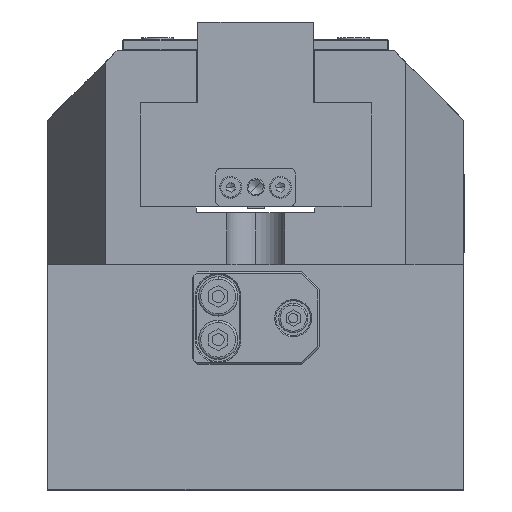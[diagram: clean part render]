
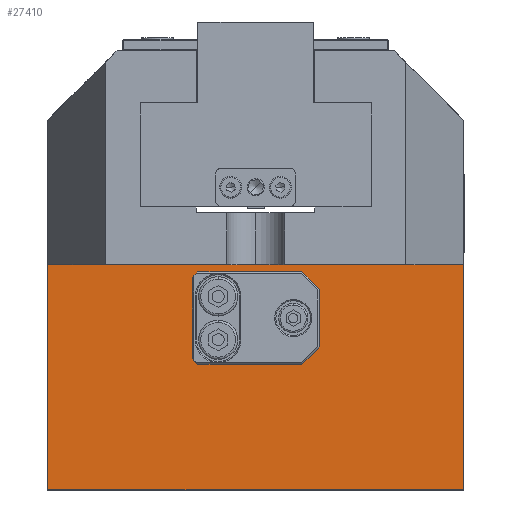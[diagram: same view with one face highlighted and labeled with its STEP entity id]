
A CAD part, left-side view. The second image highlights one B-rep face of the part: STEP entity #27410.
In plain terms, the highlighted planar face has unit normal (-1, 0, 0).
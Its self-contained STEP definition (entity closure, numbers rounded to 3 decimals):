
#646 = FACE_OUTER_BOUND ( 'NONE', #27493, .T. ) ;
#760 = DIRECTION ( 'NONE',  ( 0., 0., 1. ) ) ;
#1214 = VERTEX_POINT ( 'NONE', #28672 ) ;
#2307 = LINE ( 'NONE', #32915, #22686 ) ;
#3247 = LINE ( 'NONE', #39861, #7020 ) ;
#3973 = CARTESIAN_POINT ( 'NONE',  ( -62.5, 6.5, 33.5 ) ) ;
#4291 = CARTESIAN_POINT ( 'NONE',  ( -62.5, 6.5, 33.5 ) ) ;
#5013 = VERTEX_POINT ( 'NONE', #31191 ) ;
#5240 = CIRCLE ( 'NONE', #54241, 2. ) ;
#5733 = VECTOR ( 'NONE', #28903, 1000. ) ;
#7020 = VECTOR ( 'NONE', #60236, 1000. ) ;
#7230 = ORIENTED_EDGE ( 'NONE', *, *, #49169, .T. ) ;
#8553 = EDGE_CURVE ( 'NONE', #47585, #56739, #59288, .T. ) ;
#9210 = CARTESIAN_POINT ( 'NONE',  ( -62.5, 6.5, 26. ) ) ;
#9658 = PLANE ( 'NONE',  #32859 ) ;
#10220 = EDGE_CURVE ( 'NONE', #47585, #30404, #2307, .T. ) ;
#12011 = EDGE_CURVE ( 'NONE', #30404, #5013, #3247, .T. ) ;
#14530 = AXIS2_PLACEMENT_3D ( 'NONE', #9210, #59537, #22877 ) ;
#15303 = CARTESIAN_POINT ( 'NONE',  ( -62.5, -36., 0. ) ) ;
#18351 = EDGE_CURVE ( 'NONE', #64967, #61522, #52838, .T. ) ;
#20113 = ORIENTED_EDGE ( 'NONE', *, *, #20914, .F. ) ;
#20643 = AXIS2_PLACEMENT_3D ( 'NONE', #4291, #50275, #59309 ) ;
#20698 = ORIENTED_EDGE ( 'NONE', *, *, #34884, .T. ) ;
#20914 = EDGE_CURVE ( 'NONE', #5013, #56739, #35377, .T. ) ;
#21377 = ORIENTED_EDGE ( 'NONE', *, *, #10220, .F. ) ;
#21741 = CARTESIAN_POINT ( 'NONE',  ( -62.5, 8.5, 26. ) ) ;
#22686 = VECTOR ( 'NONE', #24867, 1000. ) ;
#22877 = DIRECTION ( 'NONE',  ( 0., 1., 0. ) ) ;
#24867 = DIRECTION ( 'NONE',  ( 0., 0., -1. ) ) ;
#25327 = DIRECTION ( 'NONE',  ( 1., 0., 0. ) ) ;
#26270 = CARTESIAN_POINT ( 'NONE',  ( -62.5, 8.5, 33.5 ) ) ;
#27410 = ADVANCED_FACE ( 'NONE', ( #60650, #35935, #646 ), #9658, .F. ) ;
#27493 = EDGE_LOOP ( 'NONE', ( #20113, #57655, #21377, #28763 ) ) ;
#28672 = CARTESIAN_POINT ( 'NONE',  ( -62.5, 4.5, 33.5 ) ) ;
#28763 = ORIENTED_EDGE ( 'NONE', *, *, #8553, .T. ) ;
#28903 = DIRECTION ( 'NONE',  ( 0., 1., 0. ) ) ;
#30404 = VERTEX_POINT ( 'NONE', #41932 ) ;
#31191 = CARTESIAN_POINT ( 'NONE',  ( -62.5, 36., 0. ) ) ;
#31812 = CARTESIAN_POINT ( 'NONE',  ( -62.5, 36., 39. ) ) ;
#32859 = AXIS2_PLACEMENT_3D ( 'NONE', #15303, #25327, #61319 ) ;
#32915 = CARTESIAN_POINT ( 'NONE',  ( -62.5, -36., 39. ) ) ;
#34772 = EDGE_CURVE ( 'NONE', #58579, #1214, #42931, .T. ) ;
#34879 = CARTESIAN_POINT ( 'NONE',  ( -62.5, -36., 39. ) ) ;
#34884 = EDGE_CURVE ( 'NONE', #1214, #58579, #36540, .T. ) ;
#35377 = LINE ( 'NONE', #55767, #42364 ) ;
#35935 = FACE_BOUND ( 'NONE', #63098, .T. ) ;
#36540 = CIRCLE ( 'NONE', #20643, 2. ) ;
#38459 = CARTESIAN_POINT ( 'NONE',  ( -62.5, 6.5, 26. ) ) ;
#39861 = CARTESIAN_POINT ( 'NONE',  ( -62.5, -36., 0. ) ) ;
#40787 = AXIS2_PLACEMENT_3D ( 'NONE', #3973, #44611, #64302 ) ;
#40887 = ORIENTED_EDGE ( 'NONE', *, *, #34772, .T. ) ;
#41932 = CARTESIAN_POINT ( 'NONE',  ( -62.5, -36., 0. ) ) ;
#42364 = VECTOR ( 'NONE', #760, 1000. ) ;
#42563 = CARTESIAN_POINT ( 'NONE',  ( -62.5, -36., 39. ) ) ;
#42931 = CIRCLE ( 'NONE', #40787, 2. ) ;
#43249 = CARTESIAN_POINT ( 'NONE',  ( -62.5, 4.5, 26. ) ) ;
#44476 = ORIENTED_EDGE ( 'NONE', *, *, #18351, .T. ) ;
#44611 = DIRECTION ( 'NONE',  ( 1., 0., 0. ) ) ;
#47585 = VERTEX_POINT ( 'NONE', #42563 ) ;
#49169 = EDGE_CURVE ( 'NONE', #61522, #64967, #5240, .T. ) ;
#50275 = DIRECTION ( 'NONE',  ( 1., 0., 0. ) ) ;
#52838 = CIRCLE ( 'NONE', #14530, 2. ) ;
#54241 = AXIS2_PLACEMENT_3D ( 'NONE', #38459, #59176, #58833 ) ;
#55767 = CARTESIAN_POINT ( 'NONE',  ( -62.5, 36., 0. ) ) ;
#56739 = VERTEX_POINT ( 'NONE', #31812 ) ;
#57655 = ORIENTED_EDGE ( 'NONE', *, *, #12011, .F. ) ;
#58579 = VERTEX_POINT ( 'NONE', #26270 ) ;
#58833 = DIRECTION ( 'NONE',  ( 0., 1., 0. ) ) ;
#59176 = DIRECTION ( 'NONE',  ( 1., 0., 0. ) ) ;
#59288 = LINE ( 'NONE', #34879, #5733 ) ;
#59309 = DIRECTION ( 'NONE',  ( 0., 1., 0. ) ) ;
#59537 = DIRECTION ( 'NONE',  ( 1., 0., 0. ) ) ;
#59949 = EDGE_LOOP ( 'NONE', ( #20698, #40887 ) ) ;
#60236 = DIRECTION ( 'NONE',  ( 0., 1., 0. ) ) ;
#60650 = FACE_BOUND ( 'NONE', #59949, .T. ) ;
#61319 = DIRECTION ( 'NONE',  ( 0., 0., -1. ) ) ;
#61522 = VERTEX_POINT ( 'NONE', #21741 ) ;
#63098 = EDGE_LOOP ( 'NONE', ( #44476, #7230 ) ) ;
#64302 = DIRECTION ( 'NONE',  ( 0., 1., 0. ) ) ;
#64967 = VERTEX_POINT ( 'NONE', #43249 ) ;
